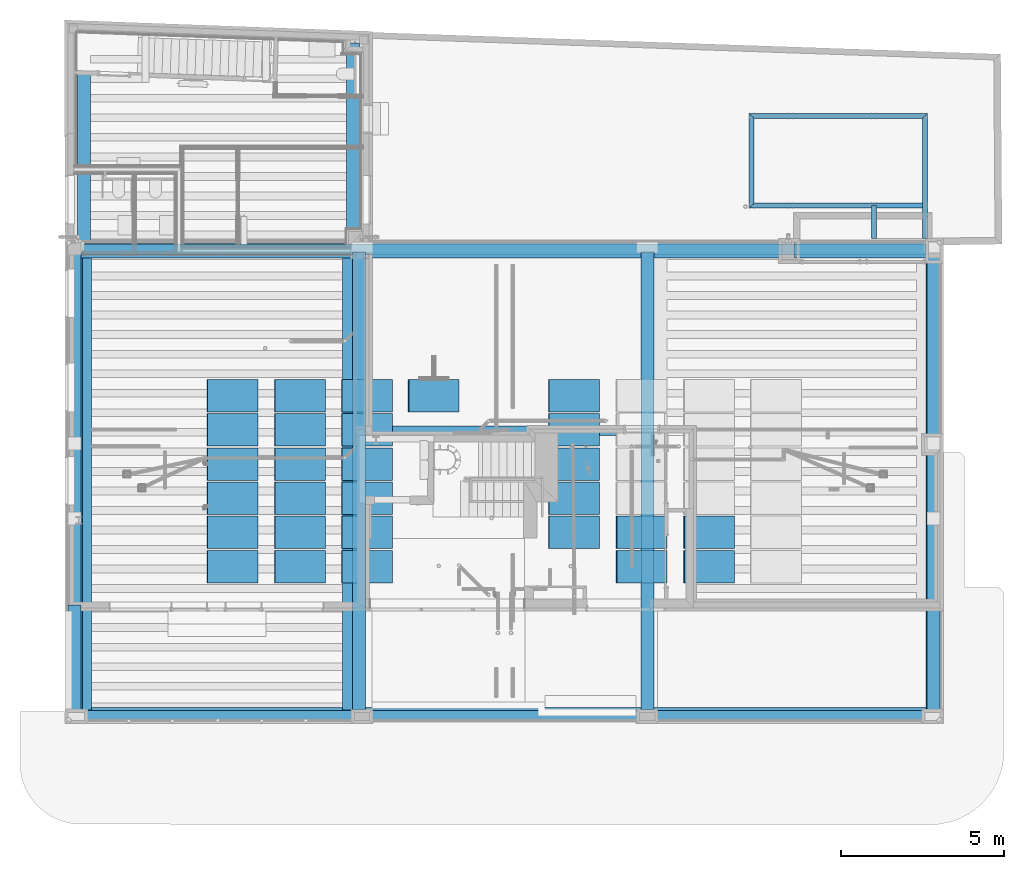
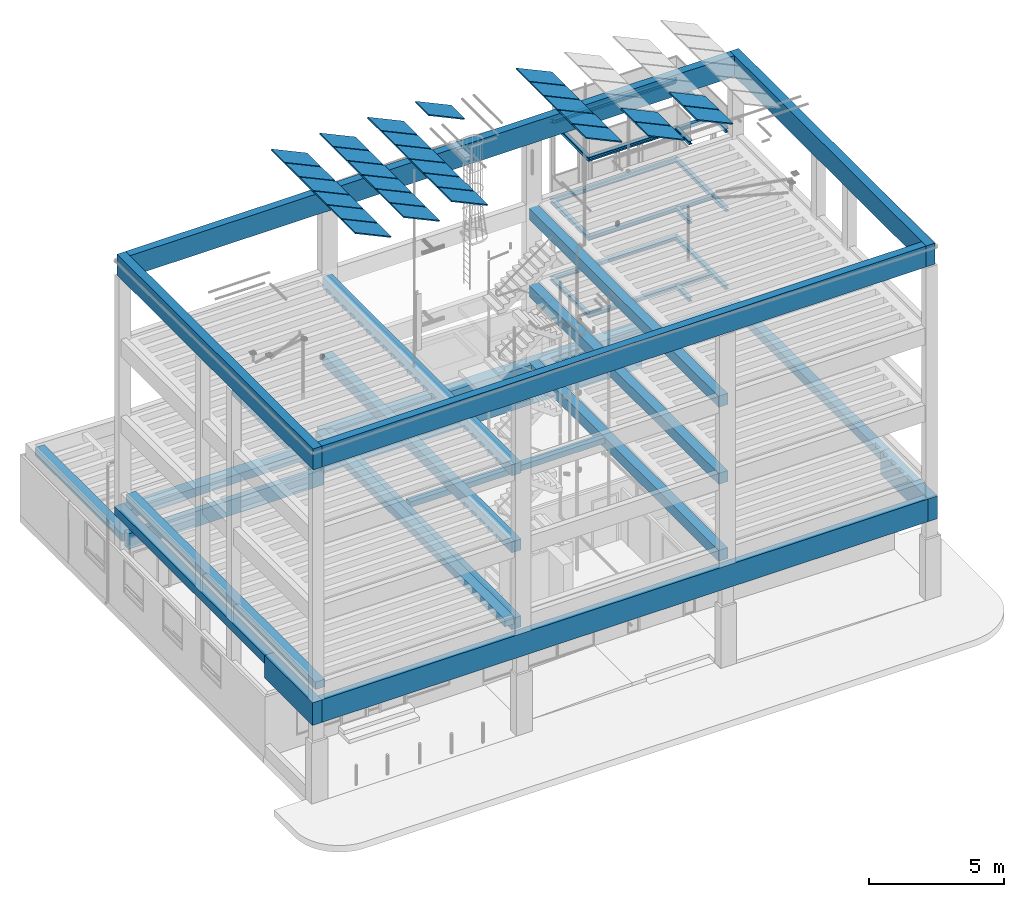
# One storey, part 4 of 108: 39 beams, 28 members.
"""IFC2X3 building model written with IfcOpenShell, lengths in metres."""

from ifc_helpers import new_model, entity, si_unit, converted_unit, derived_unit, money_unit, direction, frame, frame_2d, origin_with_axes, place, context, subcontext, project, spatial, polyline, rectangle, outline, extrude, clip, halfspace, faceted_brep, material, type_object, element, save


model = new_model("IFC2X3")

# Units and contexts
model_context = context("Model", 3, precision=1e-05, world=origin_with_axes(), true_north=direction((0.0, 1.0)))
body_context = subcontext(model_context, "Body", "Model", "MODEL_VIEW", scale=1.0)
ifc_project = project(units=[si_unit("LENGTHUNIT", "METRE"), si_unit("AREAUNIT", "SQUARE_METRE"), si_unit("VOLUMEUNIT", "CUBIC_METRE"), si_unit("ABSORBEDDOSEUNIT", "GRAY"), si_unit("AMOUNTOFSUBSTANCEUNIT", "MOLE"), si_unit("DOSEEQUIVALENTUNIT", "SIEVERT"), si_unit("ELECTRICCAPACITANCEUNIT", "FARAD"), si_unit("ELECTRICCHARGEUNIT", "COULOMB"), si_unit("ELECTRICCONDUCTANCEUNIT", "SIEMENS"), si_unit("ELECTRICCURRENTUNIT", "AMPERE"), si_unit("ELECTRICRESISTANCEUNIT", "OHM"), si_unit("ELECTRICVOLTAGEUNIT", "VOLT"), si_unit("ENERGYUNIT", "JOULE"), si_unit("FORCEUNIT", "NEWTON"), si_unit("FREQUENCYUNIT", "HERTZ"), si_unit("ILLUMINANCEUNIT", "LUX"), si_unit("INDUCTANCEUNIT", "HENRY"), si_unit("LUMINOUSFLUXUNIT", "LUMEN"), si_unit("LUMINOUSINTENSITYUNIT", "CANDELA"), si_unit("MAGNETICFLUXDENSITYUNIT", "TESLA"), si_unit("MAGNETICFLUXUNIT", "WEBER"), si_unit("MASSUNIT", "GRAM"), converted_unit("PLANEANGLEUNIT", "degree", entity("IfcReal", 0.0174532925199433), si_unit("PLANEANGLEUNIT", "RADIAN"), dimensions=[0, 0, 0, 0, 0, 0, 0]), si_unit("POWERUNIT", "WATT"), si_unit("PRESSUREUNIT", "PASCAL"), si_unit("RADIOACTIVITYUNIT", "BECQUEREL"), si_unit("SOLIDANGLEUNIT", "STERADIAN"), si_unit("THERMODYNAMICTEMPERATUREUNIT", "KELVIN"), si_unit("TIMEUNIT", "SECOND"), derived_unit("ACCELERATIONUNIT", [(si_unit("LENGTHUNIT", "METRE"), 1), (si_unit("TIMEUNIT", "SECOND"), -2)]), derived_unit("ANGULARVELOCITYUNIT", [(converted_unit("PLANEANGLEUNIT", "degree", entity("IfcReal", 0.0174532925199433), si_unit("PLANEANGLEUNIT", "RADIAN"), dimensions=[0, 0, 0, 0, 0, 0, 0]), 1), (si_unit("TIMEUNIT", "SECOND"), -1)]), derived_unit("CURVATUREUNIT", [(converted_unit("PLANEANGLEUNIT", "degree", entity("IfcReal", 0.0174532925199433), si_unit("PLANEANGLEUNIT", "RADIAN"), dimensions=[0, 0, 0, 0, 0, 0, 0]), 1), (si_unit("LENGTHUNIT", "METRE"), -1)]), derived_unit("DYNAMICVISCOSITYUNIT", [(si_unit("PRESSUREUNIT", "PASCAL"), 1), (si_unit("TIMEUNIT", "SECOND"), 1)]), derived_unit("HEATFLUXDENSITYUNIT", [(si_unit("POWERUNIT", "WATT"), 1), (si_unit("LENGTHUNIT", "METRE"), -2)]), derived_unit("HEATINGVALUEUNIT", [(si_unit("ENERGYUNIT", "JOULE"), 1), (si_unit("MASSUNIT", "GRAM"), -1)]), derived_unit("INTEGERCOUNTRATEUNIT", [(si_unit("TIMEUNIT", "SECOND"), -1)]), derived_unit("IONCONCENTRATIONUNIT", [(si_unit("MASSUNIT", "GRAM"), 1), (si_unit("VOLUMEUNIT", "CUBIC_METRE"), -1)]), derived_unit("ISOTHERMALMOISTURECAPACITYUNIT", [(si_unit("VOLUMEUNIT", "CUBIC_METRE"), 1), (si_unit("MASSUNIT", "GRAM"), -1)]), derived_unit("KINEMATICVISCOSITYUNIT", [(si_unit("AREAUNIT", "SQUARE_METRE"), 1), (si_unit("TIMEUNIT", "SECOND"), -1)]), derived_unit("LINEARFORCEUNIT", [(si_unit("FORCEUNIT", "NEWTON"), 1), (si_unit("LENGTHUNIT", "METRE"), -1)]), derived_unit("LINEARMOMENTUNIT", [(si_unit("FORCEUNIT", "NEWTON"), 1), (si_unit("LENGTHUNIT", "METRE"), -1)]), derived_unit("LINEARSTIFFNESSUNIT", [(si_unit("FORCEUNIT", "NEWTON"), 1), (si_unit("LENGTHUNIT", "METRE"), -1)]), derived_unit("LINEARVELOCITYUNIT", [(si_unit("LENGTHUNIT", "METRE"), 1), (si_unit("TIMEUNIT", "SECOND"), -1)]), derived_unit("LUMINOUSINTENSITYDISTRIBUTIONUNIT", [(si_unit("LUMINOUSINTENSITYUNIT", "CANDELA"), 1), (si_unit("LUMINOUSFLUXUNIT", "LUMEN"), -1)]), derived_unit("MASSDENSITYUNIT", [(si_unit("MASSUNIT", "GRAM"), 1), (si_unit("VOLUMEUNIT", "CUBIC_METRE"), -1)]), derived_unit("MASSFLOWRATEUNIT", [(si_unit("MASSUNIT", "GRAM"), 1), (si_unit("TIMEUNIT", "SECOND"), -1)]), derived_unit("MASSPERLENGTHUNIT", [(si_unit("MASSUNIT", "GRAM"), 1), (si_unit("LENGTHUNIT", "METRE"), -1)]), derived_unit("MODULUSOFELASTICITYUNIT", [(si_unit("FORCEUNIT", "NEWTON"), 1), (si_unit("AREAUNIT", "SQUARE_METRE"), -1)]), derived_unit("MODULUSOFLINEARSUBGRADEREACTIONUNIT", [(si_unit("FORCEUNIT", "NEWTON"), 1), (si_unit("LENGTHUNIT", "METRE"), -2)]), derived_unit("MODULUSOFROTATIONALSUBGRADEREACTIONUNIT", [(si_unit("FORCEUNIT", "NEWTON"), 1), (si_unit("LENGTHUNIT", "METRE"), 1)]), derived_unit("MODULUSOFSUBGRADEREACTIONUNIT", [(si_unit("FORCEUNIT", "NEWTON"), 1), (si_unit("VOLUMEUNIT", "CUBIC_METRE"), -1)]), derived_unit("MOISTUREDIFFUSIVITYUNIT", [(si_unit("VOLUMEUNIT", "CUBIC_METRE"), 1), (si_unit("TIMEUNIT", "SECOND"), -1)]), derived_unit("MOLECULARWEIGHTUNIT", [(si_unit("MASSUNIT", "GRAM"), 1), (si_unit("AMOUNTOFSUBSTANCEUNIT", "MOLE"), -1)]), derived_unit("PLANARFORCEUNIT", [(si_unit("FORCEUNIT", "NEWTON"), 1), (si_unit("LENGTHUNIT", "METRE"), -2)]), derived_unit("ROTATIONALFREQUENCYUNIT", [(si_unit("TIMEUNIT", "SECOND"), -1)]), derived_unit("ROTATIONALMASSUNIT", [(si_unit("MASSUNIT", "GRAM"), 1), (si_unit("LENGTHUNIT", "METRE"), 2)]), derived_unit("ROTATIONALSTIFFNESSUNIT", [(si_unit("FORCEUNIT", "NEWTON"), 1), (si_unit("LENGTHUNIT", "METRE"), 1), (converted_unit("PLANEANGLEUNIT", "degree", entity("IfcReal", 0.0174532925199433), si_unit("PLANEANGLEUNIT", "RADIAN"), dimensions=[0, 0, 0, 0, 0, 0, 0]), -1)]), derived_unit("SECTIONAREAINTEGRALUNIT", [(si_unit("LENGTHUNIT", "METRE"), 5)]), derived_unit("SECTIONMODULUSUNIT", [(si_unit("LENGTHUNIT", "METRE"), 3)]), derived_unit("SHEARMODULUSUNIT", [(si_unit("FORCEUNIT", "NEWTON"), 1), (si_unit("AREAUNIT", "SQUARE_METRE"), -1)]), derived_unit("SOUNDPOWERUNIT", [(si_unit("ENERGYUNIT", "JOULE"), 1), (si_unit("TIMEUNIT", "SECOND"), -1)]), derived_unit("SPECIFICHEATCAPACITYUNIT", [(si_unit("FORCEUNIT", "NEWTON"), 1), (si_unit("MASSUNIT", "GRAM"), -1), (si_unit("THERMODYNAMICTEMPERATUREUNIT", "KELVIN"), -1)]), derived_unit("TEMPERATUREGRADIENTUNIT", [(si_unit("THERMODYNAMICTEMPERATUREUNIT", "KELVIN"), 1), (si_unit("LENGTHUNIT", "METRE"), -1)]), derived_unit("THERMALADMITTANCEUNIT", [(si_unit("POWERUNIT", "WATT"), 1), (si_unit("AREAUNIT", "SQUARE_METRE"), -1), (si_unit("THERMODYNAMICTEMPERATUREUNIT", "KELVIN"), -1)]), derived_unit("THERMALCONDUCTANCEUNIT", [(si_unit("POWERUNIT", "WATT"), 1), (si_unit("LENGTHUNIT", "METRE"), -1), (si_unit("THERMODYNAMICTEMPERATUREUNIT", "KELVIN"), -1)]), derived_unit("THERMALEXPANSIONCOEFFICIENTUNIT", [(si_unit("THERMODYNAMICTEMPERATUREUNIT", "KELVIN"), -1)]), derived_unit("THERMALRESISTANCEUNIT", [(si_unit("AREAUNIT", "SQUARE_METRE"), 1), (si_unit("POWERUNIT", "WATT"), -1)]), derived_unit("THERMALTRANSMITTANCEUNIT", [(si_unit("POWERUNIT", "WATT"), 1), (si_unit("AREAUNIT", "SQUARE_METRE"), -1), (si_unit("THERMODYNAMICTEMPERATUREUNIT", "KELVIN"), -1)]), derived_unit("TORQUEUNIT", [(si_unit("FORCEUNIT", "NEWTON"), 1), (si_unit("LENGTHUNIT", "METRE"), 1)]), derived_unit("VAPORPERMEABILITYUNIT", [(si_unit("MASSUNIT", "GRAM"), 1), (si_unit("TIMEUNIT", "SECOND"), -1)]), derived_unit("VOLUMETRICFLOWRATEUNIT", [(si_unit("VOLUMEUNIT", "CUBIC_METRE"), 1), (si_unit("TIMEUNIT", "SECOND"), -1)]), derived_unit("WARPINGCONSTANTUNIT", [(si_unit("LENGTHUNIT", "METRE"), 6)]), derived_unit("WARPINGMOMENTUNIT", [(si_unit("FORCEUNIT", "NEWTON"), 1), (si_unit("LENGTHUNIT", "METRE"), 2)]), money_unit("GBP")], contexts=[model_context])

# Site, building, storey
site_placement = place(None, origin_with_axes())
site = spatial("IfcSite", under=ifc_project, at=site_placement, Name="Site", CompositionType="ELEMENT")
building_placement = place(site_placement, origin_with_axes())
building = spatial("IfcBuilding", under=site, at=building_placement, Name="Building01", CompositionType="ELEMENT")
storey_placement = place(building_placement, origin_with_axes())
storey = spatial("IfcBuildingStorey", under=building, at=storey_placement, Name="GF", CompositionType="ELEMENT", Elevation=0.0)

# Beams
ifc_material_1 = material(Name="A_BSUK_Beams_Steel")
beam_type_1 = type_object("IfcBeamType", Name="A-Beams-Steel", PredefinedType="BEAM")
beam_1_placement = place(storey_placement, frame((26.405835, 15.994581, 4.894267), z_axis=(-1.0, 0.0, 0.0), x_axis=(0.0, -1.0, 0.0)))
element("IfcBeam", 1, at=beam_1_placement, inside=storey, type_object=beam_type_1, material=ifc_material_1, Name="A-Beams-Steel", ObjectType="A-Beams-Steel", context=body_context, shape_type="Clipping", body=[
    clip(extrude(outline(polyline([(0.1574, 0.0), (0.1574, 0.0157), (0.0842, 0.0157), (0.0842, 0.1545), (0.1574, 0.1545), (0.1574, 0.1702), (0.0, 0.1702), (0.0, 0.1545), (0.0732, 0.1545), (0.0732, 0.0157), (0.0, 0.0157), (0.0, 0.0), (0.1574, 0.0)])), origin_with_axes(), (0.0, 0.0, 1.0), 5.394401), halfspace(frame((-2.618501, 0.0, 2.618501), z_axis=(0.70710678, 0.0, -0.70710678), x_axis=(0.0, 1.0, 0.0)), True)),
])
for number, where, z_axis, x_axis, name in (
    (2, (26.490035, 18.742181, 4.894267), (-1.0, 0.0, 0.0), (0.0, -1.0, 0.0), "A-Beams-Steel"),
    (3, (26.490035, 18.742181, 12.000813), (-1.0, 0.0, 0.0), (0.0, -1.0, 0.0), "A-Beams-Steel"),
):
    element("IfcBeam", number, at=place(storey_placement, frame(where, z_axis=z_axis, x_axis=x_axis)), inside=storey, type_object=beam_type_1, material=ifc_material_1, Name=name, ObjectType="A-Beams-Steel", context=body_context, shape_type="Clipping", body=[
        clip(clip(extrude(outline(polyline([(0.1574, 0.0), (0.1574, 0.0157), (0.0842, 0.0157), (0.0842, 0.1545), (0.1574, 0.1545), (0.1574, 0.1702), (0.0, 0.1702), (0.0, 0.1545), (0.0732, 0.1545), (0.0732, 0.0157), (0.0, 0.0157), (0.0, 0.0), (0.1574, 0.0)])), origin_with_axes(), (0.0, 0.0, 1.0), 5.478601), halfspace(frame((0.0, 0.0, 0.0), z_axis=(-0.70710678, 0.0, 0.70710678), x_axis=(0.0, -1.0, 0.0)), True)), halfspace(frame((2.739301, 0.0, 2.739301), z_axis=(-0.70710678, 0.0, -0.70710678), x_axis=(0.0, -1.0, 0.0)), True)),
    ])
beam_2_placement = place(storey_placement, frame((21.011434, 18.742181, 4.894267), z_axis=(0.0, -1.0, 0.0), x_axis=(1.0, 0.0, 0.0)))
element("IfcBeam", 4, at=beam_2_placement, inside=storey, type_object=beam_type_1, material=ifc_material_1, Name="A-Beams-Steel", ObjectType="A-Beams-Steel", context=body_context, shape_type="Clipping", body=[
    clip(clip(extrude(outline(polyline([(0.1574, 0.0), (0.1574, 0.0157), (0.0842, 0.0157), (0.0842, 0.1545), (0.1574, 0.1545), (0.1574, 0.1702), (0.0, 0.1702), (0.0, 0.1545), (0.0732, 0.1545), (0.0732, 0.0157), (0.0, 0.0157), (0.0, 0.0), (0.1574, 0.0)])), origin_with_axes(), (0.0, 0.0, 1.0), 2.905), halfspace(frame((0.0, 0.0, 0.0), z_axis=(-0.70710678, 0.0, 0.70710678), x_axis=(0.0, -1.0, 0.0)), True)), halfspace(frame((1.4525, 0.0, 1.4525), z_axis=(-0.70710678, 0.0, -0.70710678), x_axis=(-0.70710678, 0.0, 0.70710678)), True)),
])
beam_3_placement = place(storey_placement, frame((26.332635, 18.742181, 12.000813), z_axis=(0.0, -1.0, 0.0), x_axis=(1.0, 0.0, 0.0)))
element("IfcBeam", 5, at=beam_3_placement, inside=storey, type_object=beam_type_1, material=ifc_material_1, Name="A-Beams-Steel", ObjectType="A-Beams-Steel", context=body_context, shape_type="Clipping", body=[
    clip(extrude(outline(polyline([(0.1574, 0.0), (0.1574, 0.0157), (0.0842, 0.0157), (0.0842, 0.1545), (0.1574, 0.1545), (0.1574, 0.1702), (0.0, 0.1702), (0.0, 0.1545), (0.0732, 0.1545), (0.0732, 0.0157), (0.0, 0.0157), (0.0, 0.0), (0.1574, 0.0)])), origin_with_axes(), (0.0, 0.0, 1.0), 3.842181), halfspace(frame((0.0787, 0.0, 0.0787), z_axis=(0.70710678, 0.0, 0.70710678), x_axis=(0.0, 1.0, 0.0)), True)),
])
for number, where, z_axis, x_axis, name in (
    (6, (24.769835, 15.910381, 8.417242), (0.0, -1.0, 0.0), (1.0, 0.0, 0.0), "A-Beams-Steel"),
    (7, (24.769835, 15.910381, 12.000813), (0.0, -1.0, 0.0), (1.0, 0.0, 0.0), "A-Beams-Steel"),
    (8, (24.769835, 15.910381, 4.894267), (0.0, -1.0, 0.0), (1.0, 0.0, 0.0), "A-Beams-Steel"),
):
    element("IfcBeam", number, at=place(storey_placement, frame(where, z_axis=z_axis, x_axis=x_axis)), inside=storey, type_object=beam_type_1, material=ifc_material_1, Name=name, ObjectType="A-Beams-Steel", context=body_context, shape_type="SweptSolid", body=[
        extrude(outline(polyline([(0.1574, 0.0), (0.1574, 0.0157), (0.0842, 0.0157), (0.0842, 0.1545), (0.1574, 0.1545), (0.1574, 0.1702), (0.0, 0.1702), (0.0, 0.1545), (0.0732, 0.1545), (0.0732, 0.0157), (0.0, 0.0157), (0.0, 0.0), (0.1574, 0.0)])), origin_with_axes(), (0.0, 0.0, 1.0), 1.010381),
    ])
beam_4_placement = place(storey_placement, frame((21.011434, 18.742181, 8.417242), z_axis=(0.0, -1.0, 0.0), x_axis=(1.0, 0.0, 0.0)))
element("IfcBeam", 9, at=beam_4_placement, inside=storey, type_object=beam_type_1, material=ifc_material_1, Name="A-Beams-Steel", ObjectType="A-Beams-Steel", context=body_context, shape_type="Clipping", body=[
    clip(clip(extrude(outline(polyline([(0.1574, 0.0), (0.1574, 0.0157), (0.0842, 0.0157), (0.0842, 0.1545), (0.1574, 0.1545), (0.1574, 0.1702), (0.0, 0.1702), (0.0, 0.1545), (0.0732, 0.1545), (0.0732, 0.0157), (0.0, 0.0157), (0.0, 0.0), (0.1574, 0.0)])), origin_with_axes(), (0.0, 0.0, 1.0), 2.905), halfspace(frame((1.4525, 0.0, 1.4525), z_axis=(-0.70710678, 0.0, -0.70710678), x_axis=(0.0, -1.0, 0.0)), True)), halfspace(frame((0.0, 0.0, 0.0), z_axis=(-0.70710678, 0.0, 0.70710678), x_axis=(0.0, -1.0, 0.0)), True)),
])
beam_5_placement = place(storey_placement, frame((21.011434, 18.742181, 12.000813), z_axis=(0.0, -1.0, 0.0), x_axis=(1.0, 0.0, 0.0)))
element("IfcBeam", 10, at=beam_5_placement, inside=storey, type_object=beam_type_1, material=ifc_material_1, Name="A-Beams-Steel", ObjectType="A-Beams-Steel", context=body_context, shape_type="Clipping", body=[
    clip(clip(extrude(outline(polyline([(0.1574, 0.0), (0.1574, 0.0157), (0.0842, 0.0157), (0.0842, 0.1545), (0.1574, 0.1545), (0.1574, 0.1702), (0.0, 0.1702), (0.0, 0.1545), (0.0732, 0.1545), (0.0732, 0.0157), (0.0, 0.0157), (0.0, 0.0), (0.1574, 0.0)])), origin_with_axes(), (0.0, 0.0, 1.0), 2.905), halfspace(frame((0.0, 0.0, 0.0), z_axis=(-0.70710678, 0.0, 0.70710678), x_axis=(0.0, -1.0, 0.0)), True)), halfspace(frame((1.4525, 0.0, 1.4525), z_axis=(-0.70710678, 0.0, -0.70710678), x_axis=(-0.70710678, 0.0, 0.70710678)), True)),
])
beam_6_placement = place(storey_placement, frame((26.332635, 18.742181, 8.417242), z_axis=(0.0, -1.0, 0.0), x_axis=(1.0, 0.0, 0.0)))
element("IfcBeam", 11, at=beam_6_placement, inside=storey, type_object=beam_type_1, material=ifc_material_1, Name="A-Beams-Steel", ObjectType="A-Beams-Steel", context=body_context, shape_type="Clipping", body=[
    clip(extrude(outline(polyline([(0.1574, 0.0), (0.1574, 0.0157), (0.0842, 0.0157), (0.0842, 0.1545), (0.1574, 0.1545), (0.1574, 0.1702), (0.0, 0.1702), (0.0, 0.1545), (0.0732, 0.1545), (0.0732, 0.0157), (0.0, 0.0157), (0.0, 0.0), (0.1574, 0.0)])), origin_with_axes(), (0.0, 0.0, 1.0), 3.842181), halfspace(frame((0.0787, 0.0, 0.0787), z_axis=(0.70710678, 0.0, 0.70710678), x_axis=(0.70710678, 0.0, -0.70710678)), True)),
])
beam_7_placement = place(storey_placement, frame((26.332635, 18.742181, 4.894267), z_axis=(0.0, -1.0, 0.0), x_axis=(1.0, 0.0, 0.0)))
element("IfcBeam", 12, at=beam_7_placement, inside=storey, type_object=beam_type_1, material=ifc_material_1, Name="A-Beams-Steel", ObjectType="A-Beams-Steel", context=body_context, shape_type="Clipping", body=[
    clip(extrude(outline(polyline([(0.1574, 0.0), (0.1574, 0.0157), (0.0842, 0.0157), (0.0842, 0.1545), (0.1574, 0.1545), (0.1574, 0.1702), (0.0, 0.1702), (0.0, 0.1545), (0.0732, 0.1545), (0.0732, 0.0157), (0.0, 0.0157), (0.0, 0.0), (0.1574, 0.0)])), origin_with_axes(), (0.0, 0.0, 1.0), 3.842181), halfspace(frame((0.0787, 0.0, 0.0787), z_axis=(0.70710678, 0.0, 0.70710678), x_axis=(0.0, 1.0, 0.0)), True)),
])
beam_8_placement = place(storey_placement, frame((26.490035, 18.742181, 8.417242), z_axis=(-1.0, 0.0, 0.0), x_axis=(0.0, -1.0, 0.0)))
element("IfcBeam", 13, at=beam_8_placement, inside=storey, type_object=beam_type_1, material=ifc_material_1, Name="A-Beams-Steel", ObjectType="A-Beams-Steel", context=body_context, shape_type="Clipping", body=[
    clip(clip(extrude(outline(polyline([(0.1574, 0.0), (0.1574, 0.0157), (0.0842, 0.0157), (0.0842, 0.1545), (0.1574, 0.1545), (0.1574, 0.1702), (0.0, 0.1702), (0.0, 0.1545), (0.0732, 0.1545), (0.0732, 0.0157), (0.0, 0.0157), (0.0, 0.0), (0.1574, 0.0)])), origin_with_axes(), (0.0, 0.0, 1.0), 5.478601), halfspace(frame((2.739301, 0.0, 2.739301), z_axis=(-0.70710678, 0.0, -0.70710678), x_axis=(0.0, -1.0, 0.0)), True)), halfspace(frame((0.0, 0.0, 0.0), z_axis=(-0.70710678, 0.0, 0.70710678), x_axis=(0.0, -1.0, 0.0)), True)),
])
for number, where, z_axis, x_axis, name in (
    (14, (26.405835, 15.994581, 8.417242), (-1.0, 0.0, 0.0), (0.0, -1.0, 0.0), "A-Beams-Steel"),
    (15, (26.405835, 15.994581, 12.000813), (-1.0, 0.0, 0.0), (0.0, -1.0, 0.0), "A-Beams-Steel"),
):
    element("IfcBeam", number, at=place(storey_placement, frame(where, z_axis=z_axis, x_axis=x_axis)), inside=storey, type_object=beam_type_1, material=ifc_material_1, Name=name, ObjectType="A-Beams-Steel", context=body_context, shape_type="Clipping", body=[
        clip(extrude(outline(polyline([(0.1574, 0.0), (0.1574, 0.0157), (0.0842, 0.0157), (0.0842, 0.1545), (0.1574, 0.1545), (0.1574, 0.1702), (0.0, 0.1702), (0.0, 0.1545), (0.0732, 0.1545), (0.0732, 0.0157), (0.0, 0.0157), (0.0, 0.0), (0.1574, 0.0)])), origin_with_axes(), (0.0, 0.0, 1.0), 5.394401), halfspace(frame((-2.618501, 0.0, 2.618501), z_axis=(0.70710678, 0.0, -0.70710678), x_axis=(0.0, 1.0, 0.0)), True)),
    ])
ifc_material_2 = material(Name="S_BSUK_Beams_PrecastConcrete")
beam_type_2 = type_object("IfcBeamType", Name="S-Beams-PrecastConcrete", PredefinedType="BEAM")
for number, where, z_axis, x_axis, name in (
    (16, (17.685, 14.48, 4.4), (0.0, -1.0, 0.0), (1.0, 0.0, 0.0), "S-Beams-PrecastConcrete"),
    (17, (8.825, 14.48, 4.4), (0.0, -1.0, 0.0), (1.0, 0.0, 0.0), "S-Beams-PrecastConcrete"),
    (18, (17.685, 14.48, 7.89), (0.0, -1.0, 0.0), (1.0, 0.0, 0.0), "S-Beams-PrecastConcrete"),
    (19, (8.825, 14.48, 7.89), (0.0, -1.0, 0.0), (1.0, 0.0, 0.0), "S-Beams-PrecastConcrete"),
    (20, (17.685, 14.48, 11.38), (0.0, -1.0, 0.0), (1.0, 0.0, 0.0), "S-Beams-PrecastConcrete"),
    (21, (8.825, 14.48, 11.38), (0.0, -1.0, 0.0), (1.0, 0.0, 0.0), "S-Beams-PrecastConcrete"),
):
    element("IfcBeam", number, at=place(storey_placement, frame(where, z_axis=z_axis, x_axis=x_axis)), inside=storey, type_object=beam_type_2, material=ifc_material_2, Name=name, ObjectType="S-Beams-PrecastConcrete", context=body_context, shape_type="SweptSolid", body=[
        extrude(rectangle(XDim=0.5, YDim=0.4, at=frame_2d((0.2, 0.25), x_axis=(0.0, 1.0))), origin_with_axes(), (0.0, 0.0, 1.0), 14.06),
    ])
beam_9_placement = place(storey_placement, frame((0.1, 14.8, 3.97), z_axis=(0.0, -1.0, 0.0), x_axis=(1.0, 0.0, 0.0)))
element("IfcBeam", 22, at=beam_9_placement, inside=storey, type_object=beam_type_2, material=ifc_material_2, Name="S-Beams-PrecastConcrete", ObjectType="S-Beams-PrecastConcrete", context=body_context, shape_type="SweptSolid", body=[
    extrude(rectangle(XDim=0.38, YDim=0.4, at=frame_2d((0.2, 0.19), x_axis=(0.0, 1.0))), origin_with_axes(), (0.0, 0.0, 1.0), 11.153538),
])
beam_10_placement = place(storey_placement, frame((22.41, 14.799999, 3.1), z_axis=(-1.0, 0.0, 0.0), x_axis=(0.0, -1.0, 0.0)))
element("IfcBeam", 23, at=beam_10_placement, inside=storey, type_object=beam_type_2, material=ifc_material_2, Name="S-Beams-PrecastConcrete", ObjectType="S-Beams-PrecastConcrete", context=body_context, shape_type="SweptSolid", body=[
    extrude(rectangle(XDim=1.8, YDim=0.5, at=frame_2d((0.25, 0.9), x_axis=(0.0, 1.0))), origin_with_axes(), (0.0, 0.0, 1.0), 13.62),
])
beam_11_placement = place(storey_placement, frame((0.1, 3.646462, 3.32), z_axis=(0.0, -1.0, 0.0), x_axis=(1.0, 0.0, 0.0)))
element("IfcBeam", 24, at=beam_11_placement, inside=storey, type_object=beam_type_2, material=ifc_material_2, Name="S-Beams-PrecastConcrete", ObjectType="S-Beams-PrecastConcrete", context=body_context, shape_type="SweptSolid", body=[
    extrude(rectangle(XDim=1.03, YDim=0.4, at=frame_2d((0.2, 0.515), x_axis=(0.0, 1.0))), origin_with_axes(), (0.0, 0.0, 1.0), 3.546462),
])
beam_12_placement = place(storey_placement, frame((0.5, 0.1, 3.32), z_axis=(1.0, 0.0, 0.0), x_axis=(0.0, 1.0, 0.0)))
element("IfcBeam", 25, at=beam_12_placement, inside=storey, type_object=beam_type_2, material=ifc_material_2, Name="S-Beams-PrecastConcrete", ObjectType="S-Beams-PrecastConcrete", context=body_context, shape_type="SweptSolid", body=[
    extrude(rectangle(XDim=1.03, YDim=0.3, at=frame_2d((0.15, 0.515), x_axis=(0.0, 1.0))), origin_with_axes(), (0.0, 0.0, 1.0), 25.98),
])
beam_13_placement = place(storey_placement, frame((26.48, 3.646462, 3.32), z_axis=(0.0, -1.0, 0.0), x_axis=(1.0, 0.0, 0.0)))
element("IfcBeam", 26, at=beam_13_placement, inside=storey, type_object=beam_type_2, material=ifc_material_2, Name="S-Beams-PrecastConcrete", ObjectType="S-Beams-PrecastConcrete", context=body_context, shape_type="SweptSolid", body=[
    extrude(rectangle(XDim=1.03, YDim=0.4, at=frame_2d((0.2, 0.515), x_axis=(0.0, 1.0))), origin_with_axes(), (0.0, 0.0, 1.0), 3.546462),
])
beam_14_placement = place(storey_placement, frame((26.48, 14.8, 3.97), z_axis=(0.0, -1.0, 0.0), x_axis=(1.0, 0.0, 0.0)))
element("IfcBeam", 27, at=beam_14_placement, inside=storey, type_object=beam_type_2, material=ifc_material_2, Name="S-Beams-PrecastConcrete", ObjectType="S-Beams-PrecastConcrete", context=body_context, shape_type="SweptSolid", body=[
    extrude(rectangle(XDim=0.38, YDim=0.4, at=frame_2d((0.2, 0.19), x_axis=(0.0, 1.0))), origin_with_axes(), (0.0, 0.0, 1.0), 11.153538),
])
beam_15_placement = place(storey_placement, frame((26.48, 14.799999, 3.97), z_axis=(-1.0, 0.0, 0.0), x_axis=(0.0, -1.0, 0.0)))
element("IfcBeam", 28, at=beam_15_placement, inside=storey, type_object=beam_type_2, material=ifc_material_2, Name="S-Beams-PrecastConcrete", ObjectType="S-Beams-PrecastConcrete", context=body_context, shape_type="SweptSolid", body=[
    extrude(rectangle(XDim=0.38, YDim=0.5, at=frame_2d((0.25, 0.19), x_axis=(0.0, 1.0))), origin_with_axes(), (0.0, 0.0, 1.0), 4.07),
])
beam_16_placement = place(storey_placement, frame((8.79, 14.799999, 3.97), z_axis=(-1.0, 0.0, 0.0), x_axis=(0.0, -1.0, 0.0)))
element("IfcBeam", 29, at=beam_16_placement, inside=storey, type_object=beam_type_2, material=ifc_material_2, Name="S-Beams-PrecastConcrete", ObjectType="S-Beams-PrecastConcrete", context=body_context, shape_type="SweptSolid", body=[
    extrude(rectangle(XDim=0.38, YDim=0.5, at=frame_2d((0.25, 0.19), x_axis=(0.0, 1.0))), origin_with_axes(), (0.0, 0.0, 1.0), 8.29),
])
beam_17_placement = place(storey_placement, frame((9.325, 8.847854, 4.65), z_axis=(1.0, 0.0, 0.0), x_axis=(0.0, 1.0, 0.0)))
element("IfcBeam", 30, at=beam_17_placement, inside=storey, type_object=beam_type_2, material=ifc_material_2, Name="S-Beams-PrecastConcrete", ObjectType="S-Beams-PrecastConcrete", context=body_context, shape_type="SweptSolid", body=[
    extrude(rectangle(XDim=0.25, YDim=0.3, at=frame_2d((0.15, 0.125), x_axis=(0.0, 1.0))), origin_with_axes(), (0.0, 0.0, 1.0), 8.36),
])
beam_18_placement = place(storey_placement, frame((8.903038, 14.73, 2.435), z_axis=(-1.0, 0.0, 0.0), x_axis=(0.0, -1.0, 0.0)))
element("IfcBeam", 31, at=beam_18_placement, inside=storey, type_object=beam_type_2, material=ifc_material_2, Name="S-Beams-PrecastConcrete", ObjectType="S-Beams-PrecastConcrete", context=body_context, shape_type="SweptSolid", body=[
    extrude(rectangle(XDim=0.7, YDim=0.25, at=frame_2d((0.125, 0.35), x_axis=(0.0, 1.0))), origin_with_axes(), (0.0, 0.0, 1.0), 8.403038),
])
for number, where, z_axis, x_axis, name in (
    (32, (0.42, 14.48, 4.64), (0.0, -1.0, 0.0), (1.0, 0.0, 0.0), "S-Beams-PrecastConcrete"),
    (33, (8.525, 14.48, 4.64), (0.0, -1.0, 0.0), (1.0, 0.0, 0.0), "S-Beams-PrecastConcrete"),
):
    element("IfcBeam", number, at=place(storey_placement, frame(where, z_axis=z_axis, x_axis=x_axis)), inside=storey, type_object=beam_type_2, material=ifc_material_2, Name=name, ObjectType="S-Beams-PrecastConcrete", context=body_context, shape_type="SweptSolid", body=[
        extrude(rectangle(XDim=0.34, YDim=0.4, at=frame_2d((0.2, 0.17), x_axis=(0.0, 1.0))), origin_with_axes(), (0.0, 0.0, 1.0), 14.06),
    ])
beam_19_placement = place(storey_placement, frame((0.390679, 21.207883, 2.675), z_axis=(0.0, -1.0, 0.0), x_axis=(1.0, 0.0, 0.0)))
element("IfcBeam", 34, at=beam_19_placement, inside=storey, type_object=beam_type_2, material=ifc_material_2, Name="S-Beams-PrecastConcrete", ObjectType="S-Beams-PrecastConcrete", context=body_context, shape_type="SweptSolid", body=[
    extrude(rectangle(XDim=0.34, YDim=0.4, at=frame_2d((0.2, 0.17), x_axis=(0.0, 1.0))), origin_with_axes(), (0.0, 0.0, 1.0), 6.477883),
])
beam_20_placement = place(storey_placement, frame((8.653038, 20.901785, 2.675), z_axis=(0.0, -1.0, 0.0), x_axis=(1.0, 0.0, 0.0)))
element("IfcBeam", 35, at=beam_20_placement, inside=storey, type_object=beam_type_2, material=ifc_material_2, Name="S-Beams-PrecastConcrete", ObjectType="S-Beams-PrecastConcrete", context=body_context, shape_type="SweptSolid", body=[
    extrude(rectangle(XDim=0.34, YDim=0.4, at=frame_2d((0.2, 0.17), x_axis=(0.0, 1.0))), origin_with_axes(), (0.0, 0.0, 1.0), 6.171785),
])
beam_21_placement = place(storey_placement, frame((26.44, 14.73, 14.83), z_axis=(-1.0, 0.0, 0.0), x_axis=(0.0, -1.0, 0.0)))
element("IfcBeam", 36, at=beam_21_placement, inside=storey, type_object=beam_type_2, material=ifc_material_2, Name="S-Beams-PrecastConcrete", ObjectType="S-Beams-PrecastConcrete", context=body_context, shape_type="SweptSolid", body=[
    extrude(rectangle(XDim=0.95, YDim=0.33, at=frame_2d((0.165, 0.475), x_axis=(0.0, 1.0))), origin_with_axes(), (0.0, 0.0, 1.0), 25.9),
])
beam_22_placement = place(storey_placement, frame((26.44, 14.73, 14.83), z_axis=(0.0, -1.0, 0.0), x_axis=(1.0, 0.0, 0.0)))
element("IfcBeam", 37, at=beam_22_placement, inside=storey, type_object=beam_type_2, material=ifc_material_2, Name="S-Beams-PrecastConcrete", ObjectType="S-Beams-PrecastConcrete", context=body_context, shape_type="SweptSolid", body=[
    extrude(rectangle(XDim=0.95, YDim=0.37, at=frame_2d((0.185, 0.475), x_axis=(0.0, 1.0))), origin_with_axes(), (0.0, 0.0, 1.0), 14.56),
])
beam_23_placement = place(storey_placement, frame((26.44, 0.5, 14.83), z_axis=(-1.0, 0.0, 0.0), x_axis=(0.0, -1.0, 0.0)))
element("IfcBeam", 38, at=beam_23_placement, inside=storey, type_object=beam_type_2, material=ifc_material_2, Name="S-Beams-PrecastConcrete", ObjectType="S-Beams-PrecastConcrete", context=body_context, shape_type="SweptSolid", body=[
    extrude(rectangle(XDim=0.95, YDim=0.33, at=frame_2d((0.165, 0.475), x_axis=(0.0, 1.0))), origin_with_axes(), (0.0, 0.0, 1.0), 25.9),
])
beam_24_placement = place(storey_placement, frame((0.17, 14.73, 14.83), z_axis=(0.0, -1.0, 0.0), x_axis=(1.0, 0.0, 0.0)))
element("IfcBeam", 39, at=beam_24_placement, inside=storey, type_object=beam_type_2, material=ifc_material_2, Name="S-Beams-PrecastConcrete", ObjectType="S-Beams-PrecastConcrete", context=body_context, shape_type="SweptSolid", body=[
    extrude(rectangle(XDim=0.95, YDim=0.37, at=frame_2d((0.185, 0.475), x_axis=(0.0, 1.0))), origin_with_axes(), (0.0, 0.0, 1.0), 14.56),
])

# Members
ifc_material_3 = material(Name="A_BSUK_BasePlates")
member_type = type_object("IfcMemberType", Name="A-Baseplate", PredefinedType="PLATE")
for number, where, z_axis, x_axis, name in (
    (40, (8.51151, 9.5735, 21.590851), (-0.42261826, 0.0, -0.90630779), (-0.90630779, 0.0, 0.42261826), "Solar panel"),
    (41, (6.458327, 9.5735, 21.590851), (-0.42261826, 0.0, -0.90630779), (-0.90630779, 0.0, 0.42261826), "Solar panel"),
    (42, (4.384012, 9.5735, 21.590851), (-0.42261826, 0.0, -0.90630779), (-0.90630779, 0.0, 0.42261826), "Solar panel"),
    (43, (8.51151, 8.524048, 21.590851), (-0.42261826, 0.0, -0.90630779), (-0.90630779, 0.0, 0.42261826), "Solar panel"),
    (44, (6.458327, 8.524048, 21.590851), (-0.42261826, 0.0, -0.90630779), (-0.90630779, 0.0, 0.42261826), "Solar panel"),
    (45, (4.384012, 8.524048, 21.590851), (-0.42261826, 0.0, -0.90630779), (-0.90630779, 0.0, 0.42261826), "Solar panel"),
    (46, (8.51151, 7.474596, 21.590851), (-0.42261826, 0.0, -0.90630779), (-0.90630779, 0.0, 0.42261826), "Solar panel"),
    (47, (6.458327, 7.474596, 21.590851), (-0.42261826, 0.0, -0.90630779), (-0.90630779, 0.0, 0.42261826), "Solar panel"),
    (48, (4.384012, 7.474596, 21.590851), (-0.42261826, 0.0, -0.90630779), (-0.90630779, 0.0, 0.42261826), "Solar panel"),
    (49, (8.51151, 6.425145, 21.590851), (-0.42261826, 0.0, -0.90630779), (-0.90630779, 0.0, 0.42261826), "Solar panel"),
    (50, (6.458327, 6.425145, 21.590851), (-0.42261826, 0.0, -0.90630779), (-0.90630779, 0.0, 0.42261826), "Solar panel"),
    (51, (4.384012, 6.425145, 21.590851), (-0.42261826, 0.0, -0.90630779), (-0.90630779, 0.0, 0.42261826), "Solar panel"),
    (52, (8.51151, 5.375693, 21.590851), (-0.42261826, 0.0, -0.90630779), (-0.90630779, 0.0, 0.42261826), "Solar panel"),
    (53, (6.458327, 5.375693, 21.590851), (-0.42261826, 0.0, -0.90630779), (-0.90630779, 0.0, 0.42261826), "Solar panel"),
    (54, (4.384012, 5.375693, 21.590851), (-0.42261826, 0.0, -0.90630779), (-0.90630779, 0.0, 0.42261826), "Solar panel"),
    (55, (8.51151, 4.326241, 21.590851), (-0.42261826, 0.0, -0.90630779), (-0.90630779, 0.0, 0.42261826), "Solar panel"),
    (56, (6.458327, 4.326241, 21.590851), (-0.42261826, 0.0, -0.90630779), (-0.90630779, 0.0, 0.42261826), "Solar panel"),
    (57, (4.384012, 4.326241, 21.590851), (-0.42261826, 0.0, -0.90630779), (-0.90630779, 0.0, 0.42261826), "Solar panel"),
    (58, (19.022082, 5.375693, 21.590851), (-0.42261826, 0.0, -0.90630779), (-0.90630779, 0.0, 0.42261826), "Solar panel"),
    (59, (16.947768, 5.375693, 21.590851), (-0.42261826, 0.0, -0.90630779), (-0.90630779, 0.0, 0.42261826), "Solar panel"),
    (60, (19.022082, 4.326241, 21.590851), (-0.42261826, 0.0, -0.90630779), (-0.90630779, 0.0, 0.42261826), "Solar panel"),
    (61, (16.947768, 4.326241, 21.590851), (-0.42261826, 0.0, -0.90630779), (-0.90630779, 0.0, 0.42261826), "Solar panel"),
    (62, (14.873454, 9.5735, 21.590851), (-0.42261826, 0.0, -0.90630779), (-0.90630779, 0.0, 0.42261826), "Solar panel"),
    (63, (14.873454, 8.524048, 21.590851), (-0.42261826, 0.0, -0.90630779), (-0.90630779, 0.0, 0.42261826), "Solar panel"),
    (64, (14.873454, 7.474596, 21.590851), (-0.42261826, 0.0, -0.90630779), (-0.90630779, 0.0, 0.42261826), "Solar panel"),
    (65, (14.873454, 6.425145, 21.590851), (-0.42261826, 0.0, -0.90630779), (-0.90630779, 0.0, 0.42261826), "Solar panel"),
    (66, (14.873454, 5.375693, 21.590851), (-0.42261826, 0.0, -0.90630779), (-0.90630779, 0.0, 0.42261826), "Solar panel"),
    (67, (10.564693, 9.5735, 21.590851), (-0.42261826, 0.0, -0.90630779), (-0.90630779, 0.0, 0.42261826), "Solar panel"),
):
    element("IfcMember", number, at=place(storey_placement, frame(where, z_axis=z_axis, x_axis=x_axis)), inside=storey, type_object=member_type, material=ifc_material_3, Name=name, ObjectType="A-Baseplate", context=body_context, shape_type="Brep", body=[
        faceted_brep([(0.0, 0.0, 0.050001), (0.0, 0.0, 1e-06), (0.0, 1.0, 1e-06), (0.0, 1.0, 0.050001), (-1.7, 1.0, 0.050001), (-1.7, 1.0, 1e-06), (-1.7, 0.0, 1e-06), (-1.7, 0.0, 0.050001)], [[[0, 1, 2, 3]], [[4, 5, 6, 7]], [[3, 2, 5, 4]], [[3, 4, 7, 0]], [[7, 6, 1, 0]], [[1, 6, 5, 2]]]),
    ])

save(model, "model.ifc")
